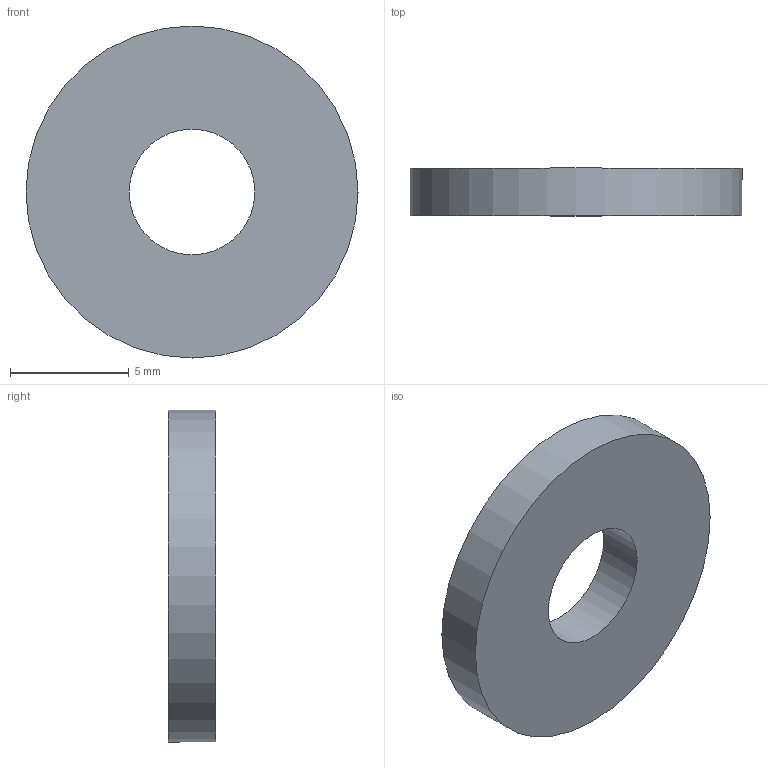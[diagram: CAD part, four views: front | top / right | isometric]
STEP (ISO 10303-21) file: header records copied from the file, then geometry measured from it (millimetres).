
FILE_DESCRIPTION (( 'STEP AP214' ), '1' );
FILE_NAME ('F12705.step', '2024-12-03T16:15:08', ( '' ), ( '' ), 'SwSTEP 2.0', 'SolidWorks 2023', '' );
FILE_SCHEMA (( 'AUTOMOTIVE_DESIGN' ));
Length unit declared in the file: millimetre
Products named in the file (1): F12705
Bounding box: 14 x 2 x 14 mm (x, y, z)
Volume: 263.8 mm3; surface area: 385 mm2
Topology: 1 solids, 1 shells, 4 faces, 6 edges, 4 vertices
Faces by surface type: cylinder 2, plane 2
Full cylindrical faces by diameter (mm): 5.3 x1, 14 x1
Entity records: 111 total; most frequent: DIRECTION 18, CARTESIAN_POINT 13, AXIS2_PLACEMENT_3D 9, ORIENTED_EDGE 8, EDGE_LOOP 8, FACE_OUTER_BOUND 6, CIRCLE 4, ADVANCED_FACE 4
